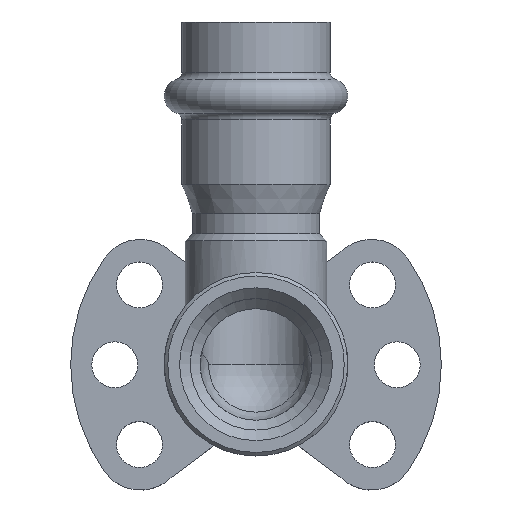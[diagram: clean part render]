
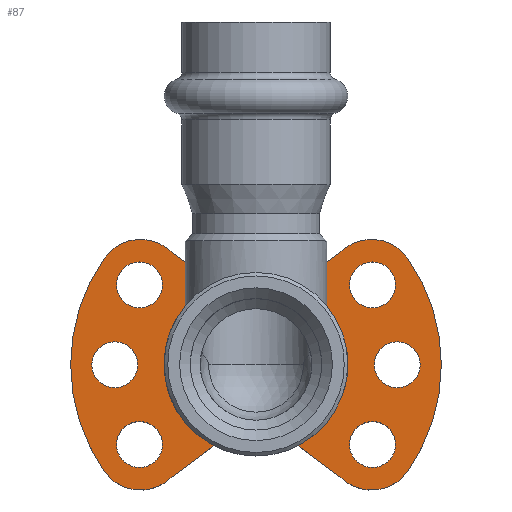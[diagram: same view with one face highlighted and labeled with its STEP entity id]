
A CAD part, top view. The second image highlights one B-rep face of the part: STEP entity #87.
In plain terms, the highlighted planar face has unit normal (0, 0, 1).
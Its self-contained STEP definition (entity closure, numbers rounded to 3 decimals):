
#87=ADVANCED_FACE('',(#608,#610,#612,#614,#616,#618,#620),#622,.F.);
#608=FACE_BOUND('',#609,.T.);
#609=EDGE_LOOP('',(#2337,#2338,#2339,#2340,#2341,#2342,#2343,#2344,#2345,#2346,#2347,
#2348,#2349,#2350,#2351,#2352,#2353,#2354));
#610=FACE_BOUND('',#611,.T.);
#611=EDGE_LOOP('',(#2355));
#612=FACE_BOUND('',#613,.T.);
#613=EDGE_LOOP('',(#2356));
#614=FACE_BOUND('',#615,.T.);
#615=EDGE_LOOP('',(#2357));
#616=FACE_BOUND('',#617,.T.);
#617=EDGE_LOOP('',(#2358));
#618=FACE_BOUND('',#619,.T.);
#619=EDGE_LOOP('',(#2359));
#620=FACE_BOUND('',#621,.T.);
#621=EDGE_LOOP('',(#2360));
#622=PLANE('',#623);
#623=AXIS2_PLACEMENT_3D('',#624,#625,#626);
#624=CARTESIAN_POINT('',(0.,0.,-12.));
#625=DIRECTION('',(0.,0.,-1.));
#626=DIRECTION('',(-1.,0.,0.));
#2337=ORIENTED_EDGE('',*,*,#3975,.F.);
#2338=ORIENTED_EDGE('',*,*,#3815,.T.);
#2339=ORIENTED_EDGE('',*,*,#3811,.F.);
#2340=ORIENTED_EDGE('',*,*,#3976,.F.);
#2341=ORIENTED_EDGE('',*,*,#3977,.F.);
#2342=ORIENTED_EDGE('',*,*,#3978,.F.);
#2343=ORIENTED_EDGE('',*,*,#3979,.F.);
#2344=ORIENTED_EDGE('',*,*,#3980,.F.);
#2345=ORIENTED_EDGE('',*,*,#3981,.T.);
#2346=ORIENTED_EDGE('',*,*,#3982,.T.);
#2347=ORIENTED_EDGE('',*,*,#3983,.T.);
#2348=ORIENTED_EDGE('',*,*,#3984,.T.);
#2349=ORIENTED_EDGE('',*,*,#3985,.T.);
#2350=ORIENTED_EDGE('',*,*,#3986,.T.);
#2351=ORIENTED_EDGE('',*,*,#3807,.T.);
#2352=ORIENTED_EDGE('',*,*,#3804,.T.);
#2353=ORIENTED_EDGE('',*,*,#3974,.F.);
#2354=ORIENTED_EDGE('',*,*,#3987,.T.);
#2355=ORIENTED_EDGE('',*,*,#3988,.T.);
#2356=ORIENTED_EDGE('',*,*,#3989,.T.);
#2357=ORIENTED_EDGE('',*,*,#3990,.T.);
#2358=ORIENTED_EDGE('',*,*,#3991,.F.);
#2359=ORIENTED_EDGE('',*,*,#3992,.F.);
#2360=ORIENTED_EDGE('',*,*,#3993,.F.);
#3804=EDGE_CURVE('',#4514,#4512,#4515,.T.);
#3807=EDGE_CURVE('',#4518,#4514,#4519,.T.);
#3811=EDGE_CURVE('',#4524,#4526,#4527,.T.);
#3815=EDGE_CURVE('',#4530,#4526,#4533,.F.);
#3974=EDGE_CURVE('',#4846,#4512,#4848,.F.);
#3975=EDGE_CURVE('',#4530,#4849,#4850,.F.);
#3976=EDGE_CURVE('',#4851,#4524,#4852,.T.);
#3977=EDGE_CURVE('',#4853,#4851,#4854,.T.);
#3978=EDGE_CURVE('',#4855,#4853,#4856,.T.);
#3979=EDGE_CURVE('',#4857,#4855,#4858,.T.);
#3980=EDGE_CURVE('',#4859,#4857,#4860,.T.);
#3981=EDGE_CURVE('',#4859,#4861,#4862,.T.);
#3982=EDGE_CURVE('',#4861,#4863,#4864,.T.);
#3983=EDGE_CURVE('',#4863,#4865,#4866,.T.);
#3984=EDGE_CURVE('',#4865,#4867,#4868,.T.);
#3985=EDGE_CURVE('',#4867,#4869,#4870,.T.);
#3986=EDGE_CURVE('',#4869,#4518,#4871,.T.);
#3987=EDGE_CURVE('',#4846,#4849,#4872,.F.);
#3988=EDGE_CURVE('',#4873,#4873,#4874,.T.);
#3989=EDGE_CURVE('',#4875,#4875,#4876,.T.);
#3990=EDGE_CURVE('',#4877,#4877,#4878,.T.);
#3991=EDGE_CURVE('',#4879,#4879,#4880,.T.);
#3992=EDGE_CURVE('',#4881,#4881,#4882,.T.);
#3993=EDGE_CURVE('',#4883,#4883,#4884,.T.);
#4512=VERTEX_POINT('',#6188);
#4514=VERTEX_POINT('',#6192);
#4515=LINE('',#6193,#6194);
#4518=VERTEX_POINT('',#6203);
#4519=LINE('',#6204,#6205);
#4524=VERTEX_POINT('',#6215);
#4526=VERTEX_POINT('',#6219);
#4527=LINE('',#6220,#6221);
#4530=VERTEX_POINT('',#6227);
#4533=LINE('',#6235,#6236);
#4846=VERTEX_POINT('',#7743);
#4848=CIRCLE('',#7747,1.);
#4849=VERTEX_POINT('',#7751);
#4850=CIRCLE('',#7752,1.);
#4851=VERTEX_POINT('',#7756);
#4852=LINE('',#7757,#7758);
#4853=VERTEX_POINT('',#7760);
#4854=CIRCLE('',#7761,6.25);
#4855=VERTEX_POINT('',#7765);
#4856=CIRCLE('',#7766,26.25);
#4857=VERTEX_POINT('',#7770);
#4858=CIRCLE('',#7771,6.25);
#4859=VERTEX_POINT('',#7775);
#4860=LINE('',#7776,#7777);
#4861=VERTEX_POINT('',#7779);
#4862=LINE('',#7780,#7781);
#4863=VERTEX_POINT('',#7783);
#4864=LINE('',#7784,#7785);
#4865=VERTEX_POINT('',#7787);
#4866=CIRCLE('',#7788,6.25);
#4867=VERTEX_POINT('',#7792);
#4868=CIRCLE('',#7793,26.25);
#4869=VERTEX_POINT('',#7797);
#4870=CIRCLE('',#7798,6.25);
#4871=LINE('',#7802,#7803);
#4872=LINE('',#7805,#7806);
#4873=VERTEX_POINT('',#7808);
#4874=CIRCLE('',#7809,3.25);
#4875=VERTEX_POINT('',#7813);
#4876=CIRCLE('',#7814,3.25);
#4877=VERTEX_POINT('',#7818);
#4878=CIRCLE('',#7819,3.25);
#4879=VERTEX_POINT('',#7823);
#4880=CIRCLE('',#7824,3.25);
#4881=VERTEX_POINT('',#7828);
#4882=CIRCLE('',#7829,3.25);
#4883=VERTEX_POINT('',#7833);
#4884=CIRCLE('',#7834,3.25);
#6188=CARTESIAN_POINT('',(4.,-4.25,-12.));
#6192=CARTESIAN_POINT('',(4.,10.75,-12.));
#6193=CARTESIAN_POINT('',(4.,10.75,-12.));
#6194=VECTOR('',#6195,1.);
#6195=DIRECTION('',(0.,-1.,0.));
#6203=CARTESIAN_POINT('',(5.,10.75,-12.));
#6204=CARTESIAN_POINT('',(5.,10.75,-12.));
#6205=VECTOR('',#6206,1.);
#6206=DIRECTION('',(-1.,0.,0.));
#6215=CARTESIAN_POINT('',(-5.,10.75,-12.));
#6219=CARTESIAN_POINT('',(-4.,10.75,-12.));
#6220=CARTESIAN_POINT('',(-5.,10.75,-12.));
#6221=VECTOR('',#6222,1.);
#6222=DIRECTION('',(1.,0.,0.));
#6227=CARTESIAN_POINT('',(-4.,-4.25,-12.));
#6235=CARTESIAN_POINT('',(-4.,10.75,-12.));
#6236=VECTOR('',#6237,1.);
#6237=DIRECTION('',(0.,-1.,0.));
#7743=CARTESIAN_POINT('',(3.,-5.25,-12.));
#7747=AXIS2_PLACEMENT_3D('',#7748,#7749,#7750);
#7748=CARTESIAN_POINT('',(3.,-4.25,-12.));
#7749=DIRECTION('',(0.,0.,-1.));
#7750=DIRECTION('',(1.,0.,0.));
#7751=CARTESIAN_POINT('',(-3.,-5.25,-12.));
#7752=AXIS2_PLACEMENT_3D('',#7753,#7754,#7755);
#7753=CARTESIAN_POINT('',(-3.,-4.25,-12.));
#7754=DIRECTION('',(0.,0.,-1.));
#7755=DIRECTION('',(0.,-1.,0.));
#7756=CARTESIAN_POINT('',(-12.019,15.993,-12.));
#7757=CARTESIAN_POINT('',(-12.019,15.993,-12.));
#7758=VECTOR('',#7759,1.);
#7759=DIRECTION('',(0.801,-0.598,0.));
#7760=CARTESIAN_POINT('',(-21.477,15.094,-12.));
#7761=AXIS2_PLACEMENT_3D('',#7762,#7763,#7764);
#7762=CARTESIAN_POINT('',(-16.363,11.5,-12.));
#7763=DIRECTION('',(0.,0.,-1.));
#7764=DIRECTION('',(-0.818,0.575,0.));
#7765=CARTESIAN_POINT('',(-21.477,-15.094,-12.));
#7766=AXIS2_PLACEMENT_3D('',#7767,#7768,#7769);
#7767=CARTESIAN_POINT('',(0.,0.,-12.));
#7768=DIRECTION('',(0.,0.,-1.));
#7769=DIRECTION('',(-0.818,-0.575,0.));
#7770=CARTESIAN_POINT('',(-12.019,-15.993,-12.));
#7771=AXIS2_PLACEMENT_3D('',#7772,#7773,#7774);
#7772=CARTESIAN_POINT('',(-16.363,-11.5,-12.));
#7773=DIRECTION('',(0.,0.,-1.));
#7774=DIRECTION('',(0.695,-0.719,0.));
#7775=CARTESIAN_POINT('',(-5.,-10.75,-12.));
#7776=CARTESIAN_POINT('',(-5.,-10.75,-12.));
#7777=VECTOR('',#7778,1.);
#7778=DIRECTION('',(-0.801,-0.598,0.));
#7779=CARTESIAN_POINT('',(5.,-10.75,-12.));
#7780=CARTESIAN_POINT('',(-5.,-10.75,-12.));
#7781=VECTOR('',#7782,1.);
#7782=DIRECTION('',(1.,0.,0.));
#7783=CARTESIAN_POINT('',(12.019,-15.993,-12.));
#7784=CARTESIAN_POINT('',(5.,-10.75,-12.));
#7785=VECTOR('',#7786,1.);
#7786=DIRECTION('',(0.801,-0.598,0.));
#7787=CARTESIAN_POINT('',(21.477,-15.094,-12.));
#7788=AXIS2_PLACEMENT_3D('',#7789,#7790,#7791);
#7789=CARTESIAN_POINT('',(16.363,-11.5,-12.));
#7790=DIRECTION('',(0.,0.,1.));
#7791=DIRECTION('',(-0.695,-0.719,0.));
#7792=CARTESIAN_POINT('',(21.477,15.094,-12.));
#7793=AXIS2_PLACEMENT_3D('',#7794,#7795,#7796);
#7794=CARTESIAN_POINT('',(0.,0.,-12.));
#7795=DIRECTION('',(0.,0.,1.));
#7796=DIRECTION('',(0.818,-0.575,0.));
#7797=CARTESIAN_POINT('',(12.019,15.993,-12.));
#7798=AXIS2_PLACEMENT_3D('',#7799,#7800,#7801);
#7799=CARTESIAN_POINT('',(16.363,11.5,-12.));
#7800=DIRECTION('',(0.,0.,1.));
#7801=DIRECTION('',(0.818,0.575,0.));
#7802=CARTESIAN_POINT('',(12.019,15.993,-12.));
#7803=VECTOR('',#7804,1.);
#7804=DIRECTION('',(-0.801,-0.598,0.));
#7805=CARTESIAN_POINT('',(-3.,-5.25,-12.));
#7806=VECTOR('',#7807,1.);
#7807=DIRECTION('',(1.,0.,0.));
#7808=CARTESIAN_POINT('',(-19.75,-11.303,-12.));
#7809=AXIS2_PLACEMENT_3D('',#7810,#7811,#7812);
#7810=CARTESIAN_POINT('',(-16.5,-11.303,-12.));
#7811=DIRECTION('',(0.,0.,-1.));
#7812=DIRECTION('',(-1.,0.,0.));
#7813=CARTESIAN_POINT('',(-19.75,11.303,-12.));
#7814=AXIS2_PLACEMENT_3D('',#7815,#7816,#7817);
#7815=CARTESIAN_POINT('',(-16.5,11.303,-12.));
#7816=DIRECTION('',(0.,0.,-1.));
#7817=DIRECTION('',(-1.,0.,0.));
#7818=CARTESIAN_POINT('',(-23.25,0.,-12.));
#7819=AXIS2_PLACEMENT_3D('',#7820,#7821,#7822);
#7820=CARTESIAN_POINT('',(-20.,0.,-12.));
#7821=DIRECTION('',(0.,0.,-1.));
#7822=DIRECTION('',(-1.,0.,0.));
#7823=CARTESIAN_POINT('',(23.25,0.,-12.));
#7824=AXIS2_PLACEMENT_3D('',#7825,#7826,#7827);
#7825=CARTESIAN_POINT('',(20.,0.,-12.));
#7826=DIRECTION('',(0.,0.,1.));
#7827=DIRECTION('',(1.,0.,0.));
#7828=CARTESIAN_POINT('',(19.75,11.303,-12.));
#7829=AXIS2_PLACEMENT_3D('',#7830,#7831,#7832);
#7830=CARTESIAN_POINT('',(16.5,11.303,-12.));
#7831=DIRECTION('',(0.,0.,1.));
#7832=DIRECTION('',(1.,0.,0.));
#7833=CARTESIAN_POINT('',(19.75,-11.303,-12.));
#7834=AXIS2_PLACEMENT_3D('',#7835,#7836,#7837);
#7835=CARTESIAN_POINT('',(16.5,-11.303,-12.));
#7836=DIRECTION('',(0.,0.,1.));
#7837=DIRECTION('',(1.,0.,0.));
